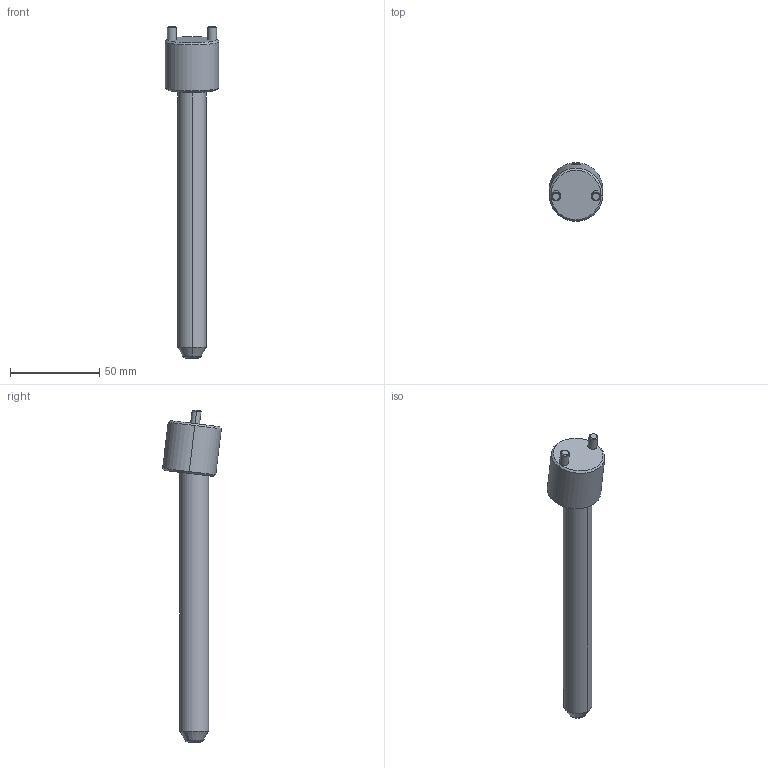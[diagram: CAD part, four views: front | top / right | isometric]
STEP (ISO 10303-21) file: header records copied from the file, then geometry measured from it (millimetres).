
FILE_DESCRIPTION((''),'2;1');
FILE_NAME('CI071615150_ASM','2018-01-18T',('MANU'),(''),'PRO/ENGINEER BY PARAMETRIC TECHNOLOGY CORPORATION, 2012130','PRO/ENGINEER BY PARAMETRIC TECHNOLOGY CORPORATION, 2012130','');
FILE_SCHEMA(('CONFIG_CONTROL_DESIGN'));
Length unit declared in the file: millimetre
Products named in the file (3): CP16150; CS0716; CI071615150_ASM
Assembly tree (2 placements, depth 2):
  CI071615150_ASM
    CP16150
    CS0716
Bounding box: 30 x 32.95 x 185.84 mm (x, y, z)
Volume: 49390.5 mm3; surface area: 14496.8 mm2
Topology: 2 solids, 2 shells, 37 faces, 76 edges, 43 vertices
Faces by surface type: cone 14, cylinder 14, plane 7, torus 2
Entity records: 1172 total; most frequent: CARTESIAN_POINT 303, DIRECTION 186, ORIENTED_EDGE 148, AXIS2_PLACEMENT_3D 78, EDGE_CURVE 74, VERTEX_POINT 43, EDGE_LOOP 41, FACE_OUTER_BOUND 37
